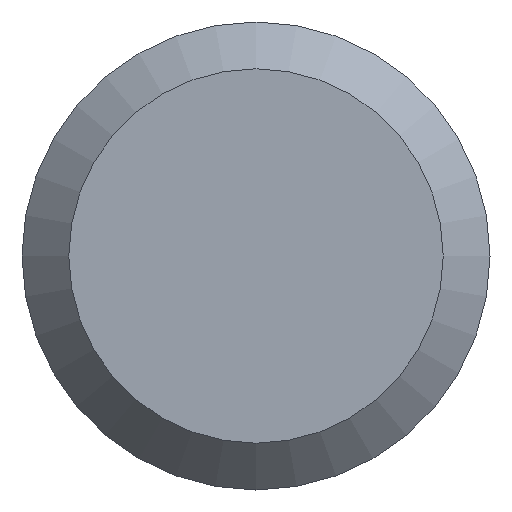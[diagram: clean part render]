
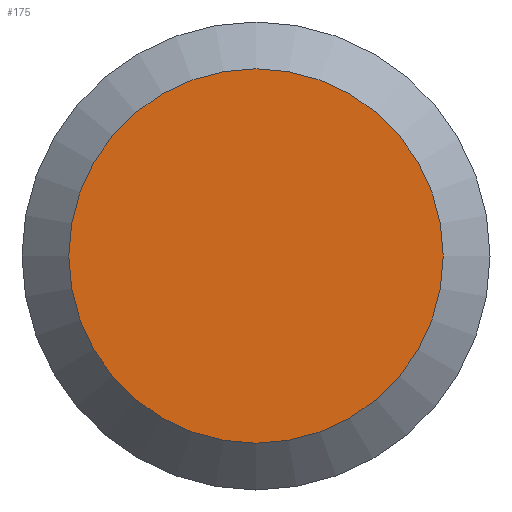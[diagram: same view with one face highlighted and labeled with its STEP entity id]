
A CAD part, left-side view. The second image highlights one B-rep face of the part: STEP entity #175.
In plain terms, the highlighted planar face has unit normal (-1, 0, 0).
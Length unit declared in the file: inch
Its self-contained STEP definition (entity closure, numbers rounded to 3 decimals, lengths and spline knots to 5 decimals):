
#3 = DIRECTION ( 'NONE',  ( 0., 0., -1. ) ) ;
#22 = CARTESIAN_POINT ( 'NONE',  ( 0., 0.0365, 0. ) ) ;
#30 = DIRECTION ( 'NONE',  ( 0., 0., -1. ) ) ;
#37 = ORIENTED_EDGE ( 'NONE', *, *, #223, .T. ) ;
#41 = PLANE ( 'NONE',  #132 ) ;
#59 = DIRECTION ( 'NONE',  ( -1., 0., 0. ) ) ;
#67 = CARTESIAN_POINT ( 'NONE',  ( 0., 0., 0. ) ) ;
#72 = EDGE_LOOP ( 'NONE', ( #37 ) ) ;
#106 = FACE_OUTER_BOUND ( 'NONE', #72, .T. ) ;
#116 = CIRCLE ( 'NONE', #135, 0.0292 ) ;
#132 = AXIS2_PLACEMENT_3D ( 'NONE', #22, #168, #3 ) ;
#135 = AXIS2_PLACEMENT_3D ( 'NONE', #67, #59, #30 ) ;
#167 = CARTESIAN_POINT ( 'NONE',  ( 0., 0., -0.0292 ) ) ;
#168 = DIRECTION ( 'NONE',  ( 1., 0., 0. ) ) ;
#175 = ADVANCED_FACE ( 'NONE', ( #106 ), #41, .F. ) ;
#223 = EDGE_CURVE ( 'NONE', #235, #235, #116, .T. ) ;
#235 = VERTEX_POINT ( 'NONE', #167 ) ;
